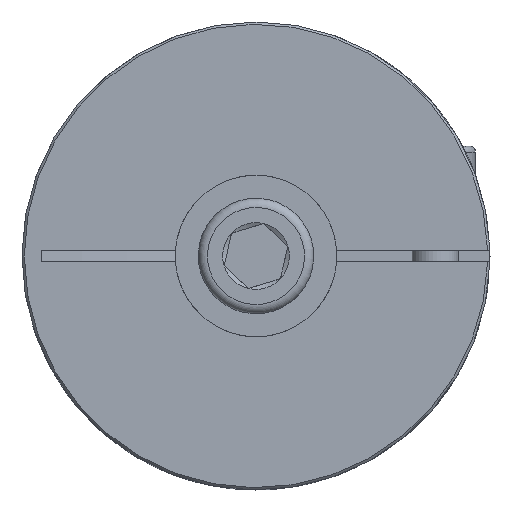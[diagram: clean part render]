
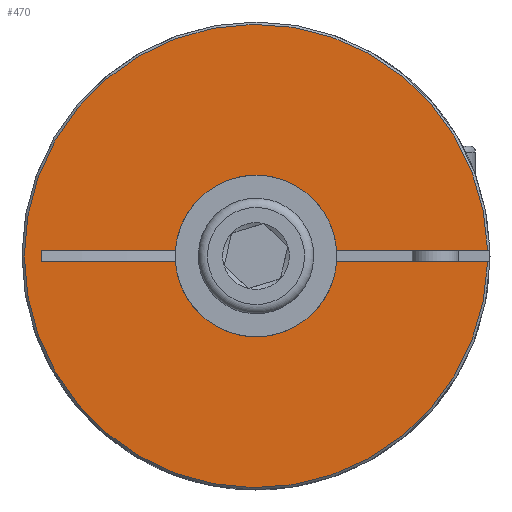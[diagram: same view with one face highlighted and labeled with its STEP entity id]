
A CAD part, left-side view. The second image highlights one B-rep face of the part: STEP entity #470.
In plain terms, the highlighted planar face has unit normal (-1, 0, 0).
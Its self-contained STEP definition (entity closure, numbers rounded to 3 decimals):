
#470 = ADVANCED_FACE( 'NONE', ( #1016 ), #1017, .F. );
#1016 = FACE_OUTER_BOUND( '', #1648, .T. );
#1017 = PLANE( '', #1649 );
#1648 = EDGE_LOOP( '', ( #2519, #2520, #2521, #2522, #2523, #2524, #2525, #2526 ) );
#1649 = AXIS2_PLACEMENT_3D( '', #2527, #2528, #2529 );
#2519 = ORIENTED_EDGE( '', *, *, #3210, .T. );
#2520 = ORIENTED_EDGE( '', *, *, #3010, .T. );
#2521 = ORIENTED_EDGE( '', *, *, #3142, .T. );
#2522 = ORIENTED_EDGE( '', *, *, #3166, .T. );
#2523 = ORIENTED_EDGE( '', *, *, #3225, .F. );
#2524 = ORIENTED_EDGE( '', *, *, #3005, .T. );
#2525 = ORIENTED_EDGE( '', *, *, #3226, .F. );
#2526 = ORIENTED_EDGE( '', *, *, #3213, .T. );
#2527 = CARTESIAN_POINT( '', ( 0., 3., 0. ) );
#2528 = DIRECTION( '', ( 1., 0., 0. ) );
#2529 = DIRECTION( '', ( 0., 1., 0. ) );
#3005 = EDGE_CURVE( '', #3409, #3407, #3410, .T. );
#3010 = EDGE_CURVE( '', #3418, #3416, #3419, .T. );
#3142 = EDGE_CURVE( '', #3416, #3611, #3612, .T. );
#3166 = EDGE_CURVE( 'NONE', #3611, #3647, #3648, .F. );
#3210 = EDGE_CURVE( 'NONE', #3709, #3418, #3711, .T. );
#3213 = EDGE_CURVE( 'NONE', #3713, #3709, #3715, .T. );
#3225 = EDGE_CURVE( '', #3409, #3647, #3731, .F. );
#3226 = EDGE_CURVE( 'NONE', #3713, #3407, #3732, .F. );
#3407 = VERTEX_POINT( '', #4016 );
#3409 = VERTEX_POINT( '', #4019 );
#3410 = CIRCLE( '', #4020, 7. );
#3416 = VERTEX_POINT( '', #4028 );
#3418 = VERTEX_POINT( '', #4031 );
#3419 = CIRCLE( '', #4032, 7. );
#3611 = VERTEX_POINT( 'NONE', #4263 );
#3612 = LINE( '', #4264, #4265 );
#3647 = VERTEX_POINT( 'NONE', #4315 );
#3648 = CIRCLE( '', #4316, 20.05 );
#3709 = VERTEX_POINT( 'NONE', #4382 );
#3711 = LINE( '', #4384, #4385 );
#3713 = VERTEX_POINT( 'NONE', #4387 );
#3715 = LINE( '', #4389, #4390 );
#3731 = LINE( '', #4413, #4414 );
#3732 = LINE( '', #4415, #4416 );
#4016 = CARTESIAN_POINT( '', ( 0., 6.982, -0.5 ) );
#4019 = CARTESIAN_POINT( '', ( 0., -6.982, -0.5 ) );
#4020 = AXIS2_PLACEMENT_3D( '', #4714, #4715, #4716 );
#4028 = CARTESIAN_POINT( '', ( 0., -6.982, 0.5 ) );
#4031 = CARTESIAN_POINT( '', ( 0., 6.982, 0.5 ) );
#4032 = AXIS2_PLACEMENT_3D( '', #4723, #4724, #4725 );
#4263 = CARTESIAN_POINT( '', ( 0., -20.044, 0.5 ) );
#4264 = CARTESIAN_POINT( '', ( 0., 3., 0.5 ) );
#4265 = VECTOR( '', #4918, 1000. );
#4315 = CARTESIAN_POINT( '', ( 0., -20.044, -0.5 ) );
#4316 = AXIS2_PLACEMENT_3D( '', #4949, #4950, #4951 );
#4382 = CARTESIAN_POINT( '', ( 0., 18.545, 0.5 ) );
#4384 = CARTESIAN_POINT( '', ( 0., 3., 0.5 ) );
#4385 = VECTOR( '', #5017, 1000. );
#4387 = CARTESIAN_POINT( '', ( 0., 18.545, -0.5 ) );
#4389 = CARTESIAN_POINT( '', ( 0., 18.545, -0.5 ) );
#4390 = VECTOR( '', #5021, 1000. );
#4413 = CARTESIAN_POINT( '', ( 0., -3.5, -0.5 ) );
#4414 = VECTOR( '', #5033, 1000. );
#4415 = CARTESIAN_POINT( '', ( 0., -3.5, -0.5 ) );
#4416 = VECTOR( '', #5034, 1000. );
#4714 = CARTESIAN_POINT( '', ( 0., 0., 0. ) );
#4715 = DIRECTION( '', ( 1., 0., 0. ) );
#4716 = DIRECTION( '', ( 0., 0., -1. ) );
#4723 = CARTESIAN_POINT( '', ( 0., 0., 0. ) );
#4724 = DIRECTION( '', ( 1., 0., 0. ) );
#4725 = DIRECTION( '', ( 0., 0., -1. ) );
#4918 = DIRECTION( '', ( 0., -1., 0. ) );
#4949 = CARTESIAN_POINT( '', ( 0., 0., 0. ) );
#4950 = DIRECTION( '', ( 1., 0., 0. ) );
#4951 = DIRECTION( '', ( 0., 0., -1. ) );
#5017 = DIRECTION( '', ( 0., -1., 0. ) );
#5021 = DIRECTION( '', ( 0., 0., 1. ) );
#5033 = DIRECTION( '', ( 0., 1., 0. ) );
#5034 = DIRECTION( '', ( 0., 1., 0. ) );
